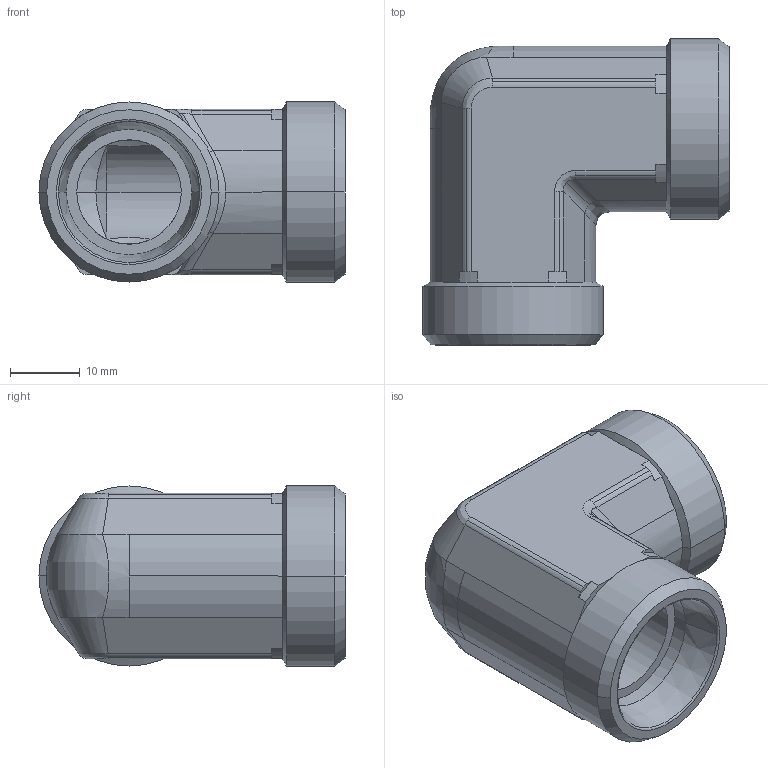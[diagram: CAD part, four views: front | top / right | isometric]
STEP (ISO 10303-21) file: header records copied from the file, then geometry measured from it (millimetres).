
FILE_DESCRIPTION((''),'2;1');
FILE_NAME('103809.stp','2007-10-31T11:53:31',(''),(''),'AutoCAD STEP 2000i','AutoCAD 2000i',', , ');
FILE_SCHEMA(('CONFIG_CONTROL_DESIGN'));
Length unit declared in the file: millimetre
Products named in the file (2): 103809.0; 3090#0
Assembly tree (1 placements, depth 2):
  103809.0
    3090#0
Bounding box: 43.92 x 43.92 x 25.85 mm (x, y, z)
Volume: 17383.4 mm3; surface area: 8509 mm2
Topology: 1 solids, 1 shells, 120 faces, 282 edges, 166 vertices
Faces by surface type: cylinder 52, plane 34, cone 20, bspline 14
Entity records: 4327 total; most frequent: CARTESIAN_POINT 1446, DIRECTION 622, ORIENTED_EDGE 564, EDGE_CURVE 282, AXIS2_PLACEMENT_3D 250, VERTEX_POINT 166, CIRCLE 124, EDGE_LOOP 124
